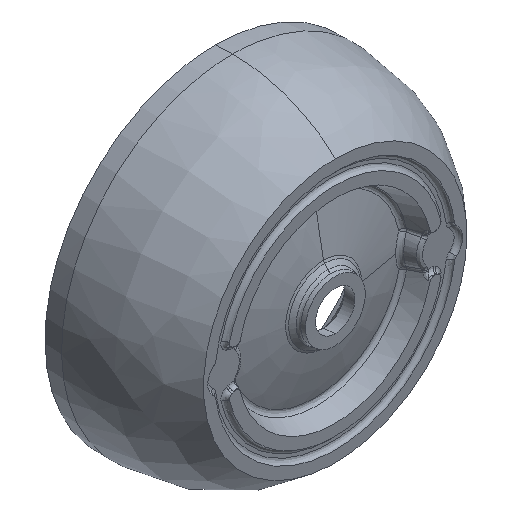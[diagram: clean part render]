
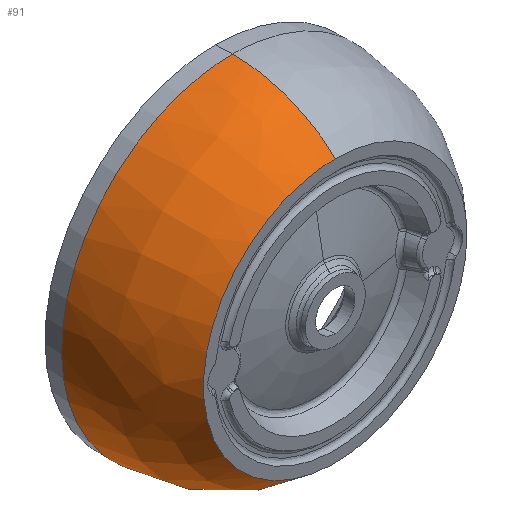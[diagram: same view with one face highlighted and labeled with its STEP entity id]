
A CAD part, isometric view. The second image highlights one B-rep face of the part: STEP entity #91.
In plain terms, the highlighted free-form (B-spline) face has degree [3, 2] with [4, 9] control points.
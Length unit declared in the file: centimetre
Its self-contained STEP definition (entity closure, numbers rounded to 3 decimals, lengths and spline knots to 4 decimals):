
#91=ADVANCED_FACE('',(#173),#1189,.T.);
#173=FACE_OUTER_BOUND('',#257,.T.);
#257=EDGE_LOOP('',(#601,#602,#603,#604,#605));
#601=ORIENTED_EDGE('',*,*,#830,.F.);
#602=ORIENTED_EDGE('',*,*,#831,.T.);
#603=ORIENTED_EDGE('',*,*,#829,.T.);
#604=ORIENTED_EDGE('',*,*,#833,.T.);
#605=ORIENTED_EDGE('',*,*,#827,.T.);
#827=EDGE_CURVE('',#1101,#1102,#982,.T.);
#829=EDGE_CURVE('',#1104,#1103,#984,.T.);
#830=EDGE_CURVE('',#1105,#1102,#985,.T.);
#831=EDGE_CURVE('',#1105,#1104,#986,.T.);
#833=EDGE_CURVE('',#1103,#1101,#988,.T.);
#982=(
BOUNDED_CURVE()
B_SPLINE_CURVE(3,(#5944,#5945,#5946,#5947),.UNSPECIFIED.,.F.,.F.)
B_SPLINE_CURVE_WITH_KNOTS((4,4),(-0.9253,0.),.UNSPECIFIED.)
CURVE()
GEOMETRIC_REPRESENTATION_ITEM()
RATIONAL_B_SPLINE_CURVE((1.,1.,1.,1.))
REPRESENTATION_ITEM('')
);
#984=(
BOUNDED_CURVE()
B_SPLINE_CURVE(3,(#5951,#5952,#5953,#5954),.UNSPECIFIED.,.F.,.F.)
B_SPLINE_CURVE_WITH_KNOTS((4,4),(0.,0.9253),
 .UNSPECIFIED.)
CURVE()
GEOMETRIC_REPRESENTATION_ITEM()
RATIONAL_B_SPLINE_CURVE((1.,1.,1.,1.))
REPRESENTATION_ITEM('')
);
#985=(
BOUNDED_CURVE()
B_SPLINE_CURVE(2,(#5955,#5956,#5957,#5958,#5959),.UNSPECIFIED.,.F.,.F.)
B_SPLINE_CURVE_WITH_KNOTS((3,2,3),(0.6283,0.9425,
1.2566),.UNSPECIFIED.)
CURVE()
GEOMETRIC_REPRESENTATION_ITEM()
RATIONAL_B_SPLINE_CURVE((1.,0.707,1.,0.707,1.))
REPRESENTATION_ITEM('')
);
#986=(
BOUNDED_CURVE()
B_SPLINE_CURVE(2,(#5960,#5961,#5962),.UNSPECIFIED.,.F.,.F.)
B_SPLINE_CURVE_WITH_KNOTS((3,3),(-0.6283,-0.3142),
 .UNSPECIFIED.)
CURVE()
GEOMETRIC_REPRESENTATION_ITEM()
RATIONAL_B_SPLINE_CURVE((1.,0.707,1.))
REPRESENTATION_ITEM('')
);
#988=(
BOUNDED_CURVE()
B_SPLINE_CURVE(2,(#5966,#5967,#5968,#5969,#5970,#5971,#5972),
 .UNSPECIFIED.,.F.,.F.)
B_SPLINE_CURVE_WITH_KNOTS((3,2,2,3),(0.2419,0.4838,
0.7257,0.9676),.UNSPECIFIED.)
CURVE()
GEOMETRIC_REPRESENTATION_ITEM()
RATIONAL_B_SPLINE_CURVE((1.,0.707,1.,0.707,1.,
0.707,1.))
REPRESENTATION_ITEM('')
);
#1101=VERTEX_POINT('',#4824);
#1102=VERTEX_POINT('',#4825);
#1103=VERTEX_POINT('',#4826);
#1104=VERTEX_POINT('',#4827);
#1105=VERTEX_POINT('',#4828);
#1189=(
BOUNDED_SURFACE()
B_SPLINE_SURFACE(3,2,((#4558,#4559,#4560,#4561,#4562,#4563,#4564,#4565,
#4566),(#4567,#4568,#4569,#4570,#4571,#4572,#4573,#4574,#4575),(#4576,#4577,
#4578,#4579,#4580,#4581,#4582,#4583,#4584),(#4585,#4586,#4587,#4588,#4589,
#4590,#4591,#4592,#4593)),.UNSPECIFIED.,.F.,.F.,.F.)
B_SPLINE_SURFACE_WITH_KNOTS((4,4),(3,2,2,2,3),(-0.111,1.0363),
(0.,1.5708,3.1416,4.7124,6.2832),
 .UNSPECIFIED.)
GEOMETRIC_REPRESENTATION_ITEM()
RATIONAL_B_SPLINE_SURFACE(((1.,0.707,1.,0.707,1.,
0.707,1.,0.707,1.),(1.,0.707,1.,0.707,
1.,0.707,1.,0.707,1.),(1.,0.707,1.,
0.707,1.,0.707,1.,0.707,1.),(1.,0.707,
1.,0.707,1.,0.707,1.,0.707,1.)))
REPRESENTATION_ITEM('')
SURFACE()
);
#4558=CARTESIAN_POINT('',(0.1988,0.1426,0.));
#4559=CARTESIAN_POINT('',(0.1988,0.1426,-0.1988));
#4560=CARTESIAN_POINT('',(0.,0.1426,-0.1988));
#4561=CARTESIAN_POINT('',(-0.1988,0.1426,-0.1988));
#4562=CARTESIAN_POINT('',(-0.1988,0.1426,0.));
#4563=CARTESIAN_POINT('',(-0.1988,0.1426,0.1988));
#4564=CARTESIAN_POINT('',(0.,0.1426,0.1988));
#4565=CARTESIAN_POINT('',(0.1988,0.1426,0.1988));
#4566=CARTESIAN_POINT('',(0.1988,0.1426,0.));
#4567=CARTESIAN_POINT('',(0.2074,0.0618,0.));
#4568=CARTESIAN_POINT('',(0.2074,0.0618,-0.2074));
#4569=CARTESIAN_POINT('',(0.,0.0618,-0.2074));
#4570=CARTESIAN_POINT('',(-0.2074,0.0618,-0.2074));
#4571=CARTESIAN_POINT('',(-0.2074,0.0618,0.));
#4572=CARTESIAN_POINT('',(-0.2074,0.0618,0.2074));
#4573=CARTESIAN_POINT('',(0.,0.0618,0.2074));
#4574=CARTESIAN_POINT('',(0.2074,0.0618,0.2074));
#4575=CARTESIAN_POINT('',(0.2074,0.0618,0.));
#4576=CARTESIAN_POINT('',(0.1684,0.0101,0.));
#4577=CARTESIAN_POINT('',(0.1684,0.0101,-0.1684));
#4578=CARTESIAN_POINT('',(0.,0.0101,-0.1684));
#4579=CARTESIAN_POINT('',(-0.1684,0.0101,-0.1684));
#4580=CARTESIAN_POINT('',(-0.1684,0.0101,0.));
#4581=CARTESIAN_POINT('',(-0.1684,0.0101,0.1684));
#4582=CARTESIAN_POINT('',(0.,0.0101,0.1684));
#4583=CARTESIAN_POINT('',(0.1684,0.0101,0.1684));
#4584=CARTESIAN_POINT('',(0.1684,0.0101,0.));
#4585=CARTESIAN_POINT('',(0.1475,-0.0055,0.));
#4586=CARTESIAN_POINT('',(0.1475,-0.0055,-0.1475));
#4587=CARTESIAN_POINT('',(0.,-0.0055,-0.1475));
#4588=CARTESIAN_POINT('',(-0.1475,-0.0055,-0.1475));
#4589=CARTESIAN_POINT('',(-0.1475,-0.0055,0.));
#4590=CARTESIAN_POINT('',(-0.1475,-0.0055,0.1475));
#4591=CARTESIAN_POINT('',(0.,-0.0055,0.1475));
#4592=CARTESIAN_POINT('',(0.1475,-0.0055,0.1475));
#4593=CARTESIAN_POINT('',(0.1475,-0.0055,0.));
#4824=CARTESIAN_POINT('',(0.,0.,0.154));
#4825=CARTESIAN_POINT('',(0.,0.12,0.2));
#4826=CARTESIAN_POINT('',(0.154,0.,0.));
#4827=CARTESIAN_POINT('',(0.2,0.12,0.));
#4828=CARTESIAN_POINT('',(0.,0.12,-0.2));
#5944=CARTESIAN_POINT('',(0.,0.,0.154));
#5945=CARTESIAN_POINT('',(0.,0.0182,0.1732));
#5946=CARTESIAN_POINT('',(0.,0.0594,0.2));
#5947=CARTESIAN_POINT('',(0.,0.12,0.2));
#5951=CARTESIAN_POINT('',(0.2,0.12,0.));
#5952=CARTESIAN_POINT('',(0.2,0.0594,0.));
#5953=CARTESIAN_POINT('',(0.1732,0.0182,0.));
#5954=CARTESIAN_POINT('',(0.154,0.,0.));
#5955=CARTESIAN_POINT('',(0.,0.12,-0.2));
#5956=CARTESIAN_POINT('',(-0.2,0.12,-0.2));
#5957=CARTESIAN_POINT('',(-0.2,0.12,0.));
#5958=CARTESIAN_POINT('',(-0.2,0.12,0.2));
#5959=CARTESIAN_POINT('',(0.,0.12,0.2));
#5960=CARTESIAN_POINT('',(0.,0.12,-0.2));
#5961=CARTESIAN_POINT('',(0.2,0.12,-0.2));
#5962=CARTESIAN_POINT('',(0.2,0.12,0.));
#5966=CARTESIAN_POINT('',(0.154,0.,0.));
#5967=CARTESIAN_POINT('',(0.154,0.,-0.154));
#5968=CARTESIAN_POINT('',(0.,0.,-0.154));
#5969=CARTESIAN_POINT('',(-0.154,0.,-0.154));
#5970=CARTESIAN_POINT('',(-0.154,0.,0.));
#5971=CARTESIAN_POINT('',(-0.154,0.,0.154));
#5972=CARTESIAN_POINT('',(0.,0.,0.154));
